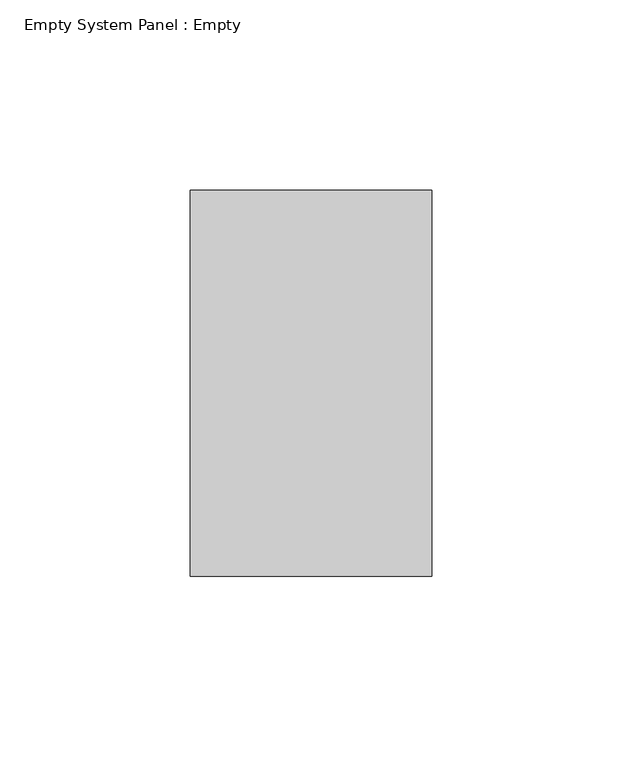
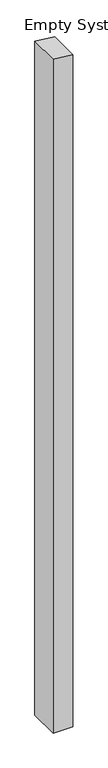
"""IFC4 building model written with IfcOpenShell, lengths in millimetres: plate geometry, Empty System Panel : Empty."""

from ifc_helpers import new_model, si_unit, frame, origin, place, context, project, spatial, polyline, outline, extrude, source, transform, mapped, element, save


def empty_system_panel_empty_4538854d(model_context):
    return source(origin(), model_context, "Body", "SweptSolid", [
        extrude(outline(polyline([(0.0, -31.75), (0.0, 31.75), (2299.5899557, 31.75), (2306.6923147, -31.75), (0.0, -31.75)])), frame((0.0, -50.8, 0.0), z_axis=(0.0, 1.0, 0.0), x_axis=(0.0, 0.0, 1.0)), (0.0, 0.0, 1.0), 101.6),
    ])


if __name__ == "__main__":
    model = new_model("IFC4")
    model_context = context("Model", 3, world=origin())
    ifc_project = project(units=[si_unit("LENGTHUNIT", "METRE", prefix="MILLI")], contexts=[model_context])
    site = spatial("IfcSite", under=ifc_project)
    building = spatial("IfcBuilding", under=site)
    placement = place(None, origin())
    empty_system_panel_empty_shape = empty_system_panel_empty_4538854d(model_context)
    element("IfcPlate", 1, ObjectType="Empty System Panel : Empty", at=placement, inside=building, context=model_context, shape_type="MappedRepresentation", body=[
        mapped(empty_system_panel_empty_shape, transform((0.0, 0.0, 0.0), x_axis=(1.0, 0.0, 0.0), y_axis=(0.0, 1.0, 0.0), z_axis=(0.0, 0.0, 1.0))),
    ])
    save(model, "model.ifc")
